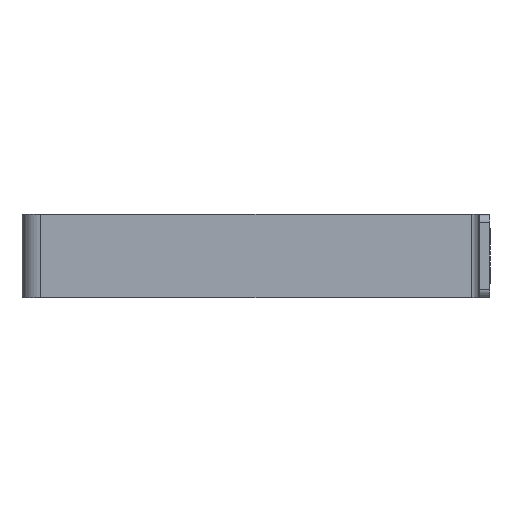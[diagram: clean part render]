
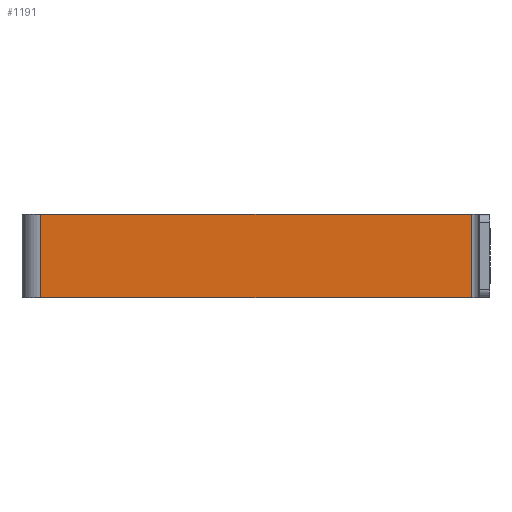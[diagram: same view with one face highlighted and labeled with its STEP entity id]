
A CAD part, left-side view. The second image highlights one B-rep face of the part: STEP entity #1191.
In plain terms, the highlighted planar face has unit normal (-1, 0, 0).
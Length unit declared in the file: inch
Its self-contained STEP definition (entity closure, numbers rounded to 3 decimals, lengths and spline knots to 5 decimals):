
#34 = ORIENTED_EDGE ( 'NONE', *, *, #529, .T. ) ;
#38 = CARTESIAN_POINT ( 'NONE',  ( -3.125, 5.5, -0.5 ) ) ;
#40 = CARTESIAN_POINT ( 'NONE',  ( -3.125, 5.5, 0.5 ) ) ;
#87 = ORIENTED_EDGE ( 'NONE', *, *, #548, .T. ) ;
#95 = EDGE_CURVE ( 'NONE', #208, #638, #975, .T. ) ;
#105 = EDGE_LOOP ( 'NONE', ( #87, #145, #219, #34 ) ) ;
#145 = ORIENTED_EDGE ( 'NONE', *, *, #95, .F. ) ;
#151 = DIRECTION ( 'NONE',  ( 1., 0., 0. ) ) ;
#153 = DIRECTION ( 'NONE',  ( 0., 1., 0. ) ) ;
#188 = VERTEX_POINT ( 'NONE', #524 ) ;
#208 = VERTEX_POINT ( 'NONE', #623 ) ;
#219 = ORIENTED_EDGE ( 'NONE', *, *, #1336, .F. ) ;
#268 = CARTESIAN_POINT ( 'NONE',  ( -3.125, 0.1, -0.5 ) ) ;
#294 = PLANE ( 'NONE',  #579 ) ;
#379 = FACE_OUTER_BOUND ( 'NONE', #105, .T. ) ;
#382 = CARTESIAN_POINT ( 'NONE',  ( -3.125, 0.1, 0.5 ) ) ;
#447 = LINE ( 'NONE', #1308, #450 ) ;
#450 = VECTOR ( 'NONE', #1246, 39.37008 ) ;
#524 = CARTESIAN_POINT ( 'NONE',  ( -3.125, 5.275, -0.5 ) ) ;
#529 = EDGE_CURVE ( 'NONE', #1064, #188, #1027, .T. ) ;
#548 = EDGE_CURVE ( 'NONE', #188, #638, #1016, .T. ) ;
#579 = AXIS2_PLACEMENT_3D ( 'NONE', #40, #151, #153 ) ;
#598 = DIRECTION ( 'NONE',  ( 0., -1., 0. ) ) ;
#623 = CARTESIAN_POINT ( 'NONE',  ( -3.125, 0.1, 0.5 ) ) ;
#638 = VERTEX_POINT ( 'NONE', #268 ) ;
#779 = DIRECTION ( 'NONE',  ( 0., 0., -1. ) ) ;
#965 = VECTOR ( 'NONE', #990, 39.37008 ) ;
#975 = LINE ( 'NONE', #382, #965 ) ;
#990 = DIRECTION ( 'NONE',  ( 0., 0., -1. ) ) ;
#1001 = VECTOR ( 'NONE', #779, 39.37008 ) ;
#1016 = LINE ( 'NONE', #38, #1018 ) ;
#1018 = VECTOR ( 'NONE', #598, 39.37008 ) ;
#1027 = LINE ( 'NONE', #1211, #1001 ) ;
#1064 = VERTEX_POINT ( 'NONE', #1320 ) ;
#1191 = ADVANCED_FACE ( 'NONE', ( #379 ), #294, .F. ) ;
#1211 = CARTESIAN_POINT ( 'NONE',  ( -3.125, 5.275, 0.5 ) ) ;
#1246 = DIRECTION ( 'NONE',  ( 0., -1., 0. ) ) ;
#1308 = CARTESIAN_POINT ( 'NONE',  ( -3.125, 5.5, 0.5 ) ) ;
#1320 = CARTESIAN_POINT ( 'NONE',  ( -3.125, 5.275, 0.5 ) ) ;
#1336 = EDGE_CURVE ( 'NONE', #1064, #208, #447, .T. ) ;
